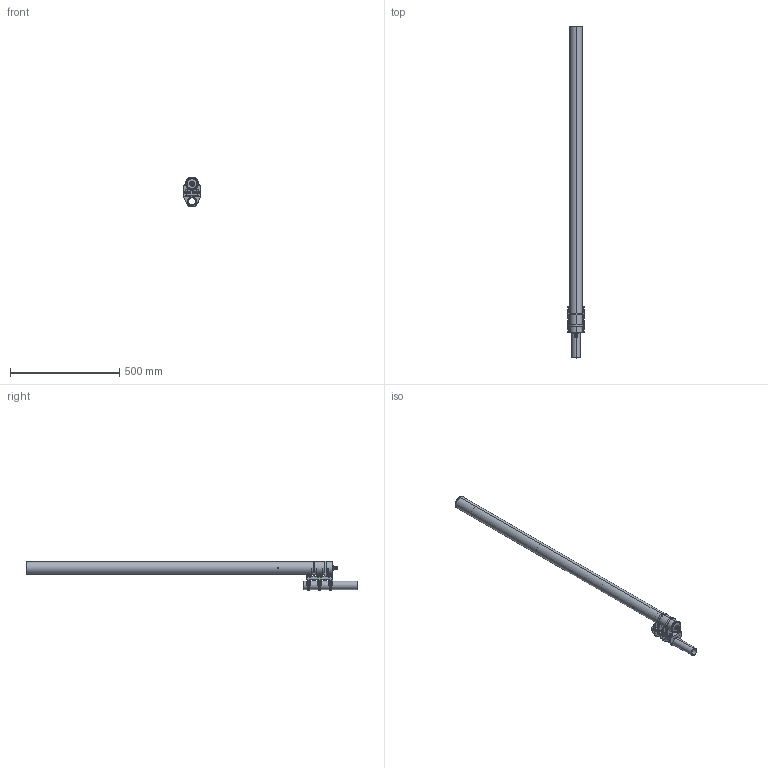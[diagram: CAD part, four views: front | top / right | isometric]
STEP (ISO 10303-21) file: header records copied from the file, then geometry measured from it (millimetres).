
FILE_DESCRIPTION (( 'STEP AP214' ), '1' );
FILE_NAME ('super-duper j-pole.STEP', '2022-01-02T07:20:36', ( '' ), ( '' ), 'SwSTEP 2.0', 'SolidWorks 2018', '' );
FILE_SCHEMA (( 'AUTOMOTIVE_DESIGN' ));
Length unit declared in the file: millimetre
Products named in the file (22): antenna support spacers; nut_5-16; u-bolt lock washer; u-bolt washer; mast u-bolt; 1.5 inch diameter PVC pipe mast; 2 inch to 4 inch clamp saddle; pipe cap - lower; 300 ohm ladder line feed; pipe cap - upper; 2 inch diameter pipe; copper contact nut; silver plated copper wire form; copper contact screw; tuning contact (left); super-duper j-pole; tuning contact (right); 9mm Cable Tie; balun; Amphenol RF 172220 lock nut; Amphenol RF 172220 lock washer; Amphenol RF 172220
Assembly tree (43 placements, depth 2):
  super-duper j-pole
    silver plated copper wire form
    2 inch diameter pipe
    pipe cap - upper
    300 ohm ladder line feed
    pipe cap - lower
    2 inch to 4 inch clamp saddle
    1.5 inch diameter PVC pipe mast
    mast u-bolt  x3
    u-bolt washer  x6
    u-bolt lock washer  x6
    nut_5-16  x6
    antenna support spacers  x3
    Amphenol RF 172220
    Amphenol RF 172220 lock washer
    Amphenol RF 172220 lock nut
    balun
    9mm Cable Tie  x2
    tuning contact (right)
    tuning contact (left)
    copper contact screw  x2
    copper contact nut  x2
Bounding box: 75 x 1518.4 x 136.67 mm (x, y, z)
Volume: 1103199 mm3; surface area: 723599 mm2
Topology: 53 solids, 53 shells, 1525 faces, 3700 edges, 2295 vertices
Faces by surface type: cylinder 625, plane 550, cone 140, torus 134, bspline 76
Entity records: 56041 total; most frequent: CARTESIAN_POINT 22250, ORIENTED_EDGE 5888, DIRECTION 5851, EDGE_CURVE 2944, AXIS2_PLACEMENT_3D 2212, VERTEX_POINT 1834, VECTOR 1427, LINE 1427
